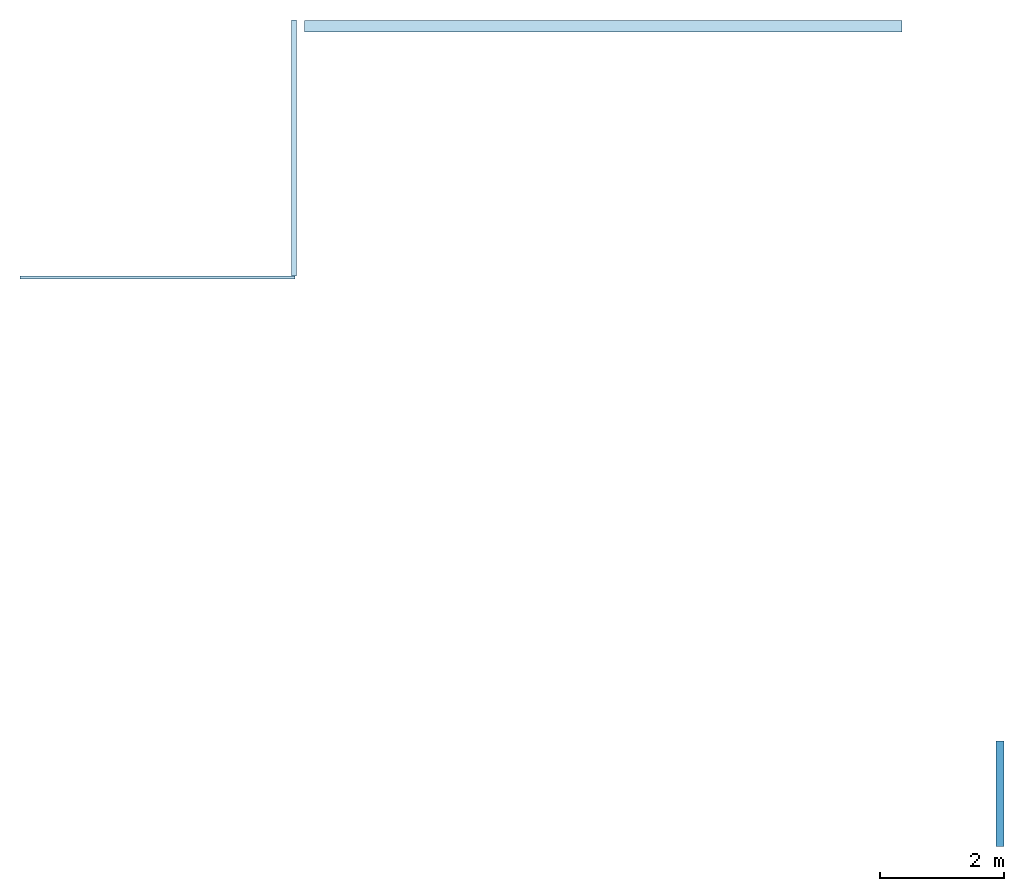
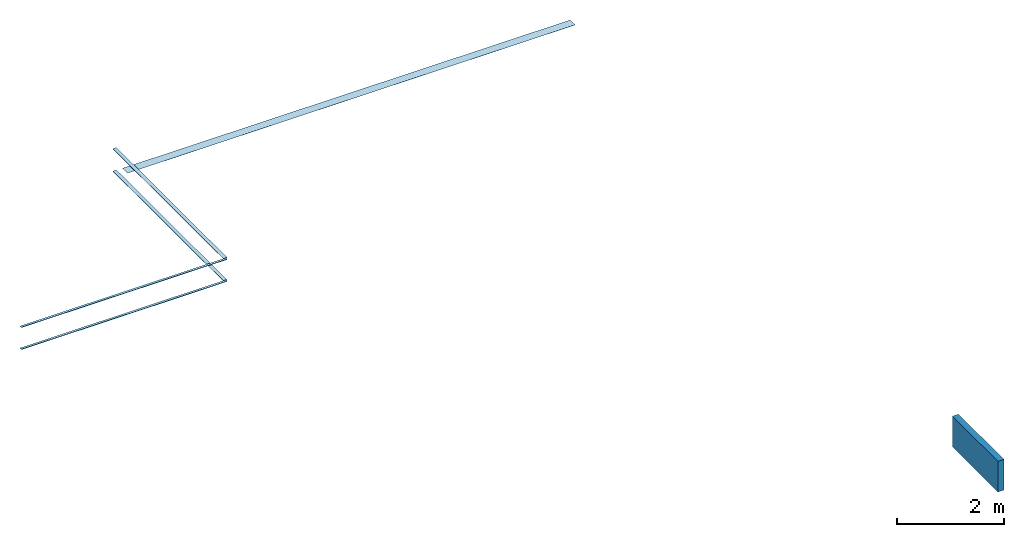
# One storey: 5 slabs, 1 wall, 5 elements without a shape of their own.
"""IFC2X3 building model written with IfcOpenShell, lengths in millimetres."""

from ifc_helpers import new_model, entity, si_unit, converted_unit, derived_unit, direction, frame, frame_2d, origin, origin_with_axes, place, context, subcontext, project, spatial, rectangle, extrude, clip, halfspace, material, layer, layer_set, layer_usage, type_object, element, aggregate, save


model = new_model("IFC2X3")

# Units and contexts
model_context = context("Model", 3, precision=0.01, world=frame((0.0, 4.29681676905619e-09, 0.0)), true_north=direction((4.01073788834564e-13, 1.0)))
plan_context = context("Plan", 3, precision=0.01, world=frame((0.0, 4.29681676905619e-09, 0.0)), true_north=direction((4.01073788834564e-13, 1.0)))
body_context = subcontext(model_context, "Body", "Model", "MODEL_VIEW")
ifc_project = project(units=[converted_unit("PLANEANGLEUNIT", "DEGREE", entity("IfcPositiveLengthMeasure", 0.0174532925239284), si_unit("PLANEANGLEUNIT", "RADIAN"), dimensions=[0, 0, 0, 0, 0, 0, 0]), si_unit("AREAUNIT", "SQUARE_METRE"), si_unit("LENGTHUNIT", "METRE", prefix="MILLI"), si_unit("MASSUNIT", "GRAM", prefix="KILO"), si_unit("POWERUNIT", "WATT"), si_unit("PRESSUREUNIT", "PASCAL"), si_unit("FORCEUNIT", "NEWTON", prefix="KILO"), si_unit("ELECTRICVOLTAGEUNIT", "VOLT"), si_unit("ELECTRICCURRENTUNIT", "AMPERE"), si_unit("THERMODYNAMICTEMPERATUREUNIT", "DEGREE_CELSIUS"), si_unit("TIMEUNIT", "SECOND"), si_unit("VOLUMEUNIT", "CUBIC_METRE"), derived_unit("LINEARVELOCITYUNIT", [(si_unit("LENGTHUNIT", "METRE"), 1), (si_unit("TIMEUNIT", "SECOND"), -1)]), derived_unit("VOLUMETRICFLOWRATEUNIT", [(si_unit("VOLUMEUNIT", "CUBIC_METRE"), 1), (si_unit("TIMEUNIT", "SECOND"), -1)]), derived_unit("THERMALTRANSMITTANCEUNIT", [(si_unit("POWERUNIT", "WATT"), 1), (si_unit("THERMODYNAMICTEMPERATUREUNIT", "KELVIN"), -1), (si_unit("AREAUNIT", "SQUARE_METRE"), -1)]), derived_unit("SOUNDPRESSUREUNIT", [(si_unit("PRESSUREUNIT", "PASCAL"), 1)])], contexts=[model_context, plan_context])

# Site, building, storey
site_placement = place(None, origin_with_axes())
site = spatial("IfcSite", under=ifc_project, at=site_placement, Name="ENGM", CompositionType="ELEMENT")
building_placement = place(site_placement, origin_with_axes())
building = spatial("IfcBuilding", under=site, at=building_placement, Name="TS", CompositionType="ELEMENT")
storey_placement = place(building_placement, frame((0.0, 0.0, 210200.0), z_axis=(0.0, 0.0, 1.0), x_axis=(1.0, 0.0, 0.0)))
storey = spatial("IfcBuildingStorey", under=building, at=storey_placement, Name="Nivå F - 0,7 m", CompositionType="ELEMENT", Elevation=210200.0)

# Roof, slab
ifc_material_1 = material(Name="NO_Stål")
ifc_layer_1 = layer(ifc_material_1, 1.5)
ifc_layer_set_1 = layer_set([ifc_layer_1], Name="Basic Roof:A261 - stålplate - 1,5")
roof_1_placement = place(storey_placement, frame((525048.69226286, 461729.999999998, 3198.49999999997), z_axis=(0.0, 0.0, 1.0), x_axis=(1.0, 0.0, 0.0)))
roof_1 = element("IfcRoof", 1, at=roof_1_placement, inside=storey, material=ifc_layer_set_1, Name="Basic Roof:A261 - stålplate - 1,5", ObjectType="Basic Roof:A261 - stålplate - 1,5", ShapeType="NOTDEFINED")
slab_1_placement = place(roof_1_placement, origin_with_axes())
slab_1 = element("IfcSlab", 2, at=slab_1_placement, material=ifc_layer_set_1, Name="Basic Roof:A261 - stålplate - 1,5", ObjectType="Basic Roof:A261 - stålplate - 1,5", PredefinedType="ROOF", context=body_context, shape_type="SweptSolid", body=[
    extrude(rectangle(XDim=185.000000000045, YDim=9632.80773711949, at=frame_2d((0.0, 6.93063384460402e-11), x_axis=(0.0, -1.0))), frame((4816.40386855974, 92.4999999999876, 0.0)), (0.0, 0.0, 1.0), 1.499999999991),
])
aggregate(roof_1, [slab_1])

ifc_layer_2 = layer(ifc_material_1, 10.0)
ifc_layer_set_2 = layer_set([ifc_layer_2], Name="Basic Roof:A261 - stålplate - 10 mm")
roof_2_placement = place(storey_placement, frame((524845.000000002, 457799.999999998, 3190.0), z_axis=(0.0, 0.0, 1.0), x_axis=(1.0, 0.0, 0.0)))
roof_2 = element("IfcRoof", 3, at=roof_2_placement, inside=storey, material=ifc_layer_set_2, Name="Basic Roof:A261 - stålplate - 10 mm", ObjectType="Basic Roof:A261 - stålplate - 10 mm", ShapeType="NOTDEFINED")
slab_2_placement = place(roof_2_placement, origin_with_axes())
slab_2 = element("IfcSlab", 4, at=slab_2_placement, material=ifc_layer_set_2, Name="Basic Roof:A261 - stålplate - 10 mm", ObjectType="Basic Roof:A261 - stålplate - 10 mm", PredefinedType="ROOF", context=body_context, shape_type="SweptSolid", body=[
    extrude(rectangle(XDim=75.0000000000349, YDim=4125.00000000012, at=frame_2d((-1.03955954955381e-10, 6.91215973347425e-11), x_axis=(1.0, 0.0))), frame((37.5000000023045, 2062.50000000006, 0.0)), (0.0, 0.0, 1.0), 9.99999999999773),
])
aggregate(roof_2, [slab_2])

roof_3_placement = place(storey_placement, frame((520463.500000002, 457749.999999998, 3200.0), z_axis=(0.0, 0.0, 1.0), x_axis=(1.0, 0.0, 0.0)))
roof_3 = element("IfcRoof", 5, at=roof_3_placement, inside=storey, material=ifc_layer_set_2, Name="Basic Roof:A261 - stålplate - 10 mm", ObjectType="Basic Roof:A261 - stålplate - 10 mm", ShapeType="NOTDEFINED")
slab_3_placement = place(roof_3_placement, origin_with_axes())
slab_3 = element("IfcSlab", 6, at=slab_3_placement, material=ifc_layer_set_2, Name="Basic Roof:A261 - stålplate - 10 mm", ObjectType="Basic Roof:A261 - stålplate - 10 mm", PredefinedType="ROOF", context=body_context, shape_type="SweptSolid", body=[
    extrude(rectangle(XDim=50.0000000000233, YDim=4431.49999999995, at=frame_2d((3.47881723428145e-11, 0.0), x_axis=(0.0, -1.0))), frame((2215.74999999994, 25.0, 0.0)), (0.0, 0.0, 1.0), 9.99999999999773),
])
aggregate(roof_3, [slab_3])

roof_4_placement = place(storey_placement, frame((520463.500000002, 457749.999999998, 3700.0), z_axis=(0.0, 0.0, 1.0), x_axis=(1.0, 0.0, 0.0)))
roof_4 = element("IfcRoof", 7, at=roof_4_placement, inside=storey, material=ifc_layer_set_2, Name="Basic Roof:A261 - stålplate - 10 mm", ObjectType="Basic Roof:A261 - stålplate - 10 mm", ShapeType="NOTDEFINED")
slab_4_placement = place(roof_4_placement, origin_with_axes())
slab_4 = element("IfcSlab", 8, at=slab_4_placement, material=ifc_layer_set_2, Name="Basic Roof:A261 - stålplate - 10 mm", ObjectType="Basic Roof:A261 - stålplate - 10 mm", PredefinedType="ROOF", context=body_context, shape_type="SweptSolid", body=[
    extrude(rectangle(XDim=50.0000000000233, YDim=4431.49999999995, at=frame_2d((3.47881723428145e-11, 0.0), x_axis=(0.0, -1.0))), frame((2215.74999999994, 25.0, 0.0)), (0.0, 0.0, 1.0), 9.99999999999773),
])
aggregate(roof_4, [slab_4])

roof_5_placement = place(storey_placement, frame((524845.000000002, 457799.999999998, 3700.0), z_axis=(0.0, 0.0, 1.0), x_axis=(1.0, 0.0, 0.0)))
roof_5 = element("IfcRoof", 9, at=roof_5_placement, inside=storey, material=ifc_layer_set_2, Name="Basic Roof:A261 - stålplate - 10 mm", ObjectType="Basic Roof:A261 - stålplate - 10 mm", ShapeType="NOTDEFINED")
slab_5_placement = place(roof_5_placement, origin_with_axes())
slab_5 = element("IfcSlab", 10, at=slab_5_placement, material=ifc_layer_set_2, Name="Basic Roof:A261 - stålplate - 10 mm", ObjectType="Basic Roof:A261 - stålplate - 10 mm", PredefinedType="ROOF", context=body_context, shape_type="SweptSolid", body=[
    extrude(rectangle(XDim=75.0000000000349, YDim=4125.00000000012, at=frame_2d((-1.03955954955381e-10, 6.91215973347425e-11), x_axis=(1.0, 0.0))), frame((37.5000000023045, 2062.50000000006, 0.0)), (0.0, 0.0, 1.0), 9.99999999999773),
])
aggregate(roof_5, [slab_5])

# Wall
ifc_material_2 = material(Name="T2_Gips Protect F")
ifc_layer_3 = layer(ifc_material_2, 15.0)
ifc_material_3 = material(Name="_NSW Stålstender, uisolert")
ifc_layer_4 = layer(ifc_material_3, 100.0)
ifc_layer_5 = layer(ifc_material_2, 15.0)
ifc_layer_set_3 = layer_set([ifc_layer_3, ifc_layer_4, ifc_layer_5], Name="Basic Wall:A241 - FVF-100 (100/100 p-p)")
ifc_layer_usage = layer_usage(ifc_layer_set_3, "AXIS2", "NEGATIVE", 65.0)
wall_type = type_object("IfcWallType", Name="Basic Wall:A241 - FVF-100 (100/100 p-p)", PredefinedType="STANDARD", material=ifc_layer_set_3)
wall_placement = place(storey_placement, frame((536265.000000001, 448600.237500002, 0.0), z_axis=(0.0, 0.0, 1.0), x_axis=(0.0, 1.0, 0.0)))
element("IfcWallStandardCase", 11, at=wall_placement, inside=storey, type_object=wall_type, material=ifc_layer_usage, Name="Basic Wall:A241 - FVF-100 (100/100 p-p)", ObjectType="Basic Wall:A241 - FVF-100 (100/100 p-p)", context=body_context, shape_type="Clipping", body=[
    clip(extrude(rectangle(XDim=1699.7624999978, YDim=130.000000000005, at=frame_2d((849.881249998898, 0.0), x_axis=(1.0, 0.0))), origin(), (0.0, 0.0, 1.0), 700.000000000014), halfspace(frame((0.0, 0.0, -6200.0)), True)),
])

save(model, "model.ifc")
